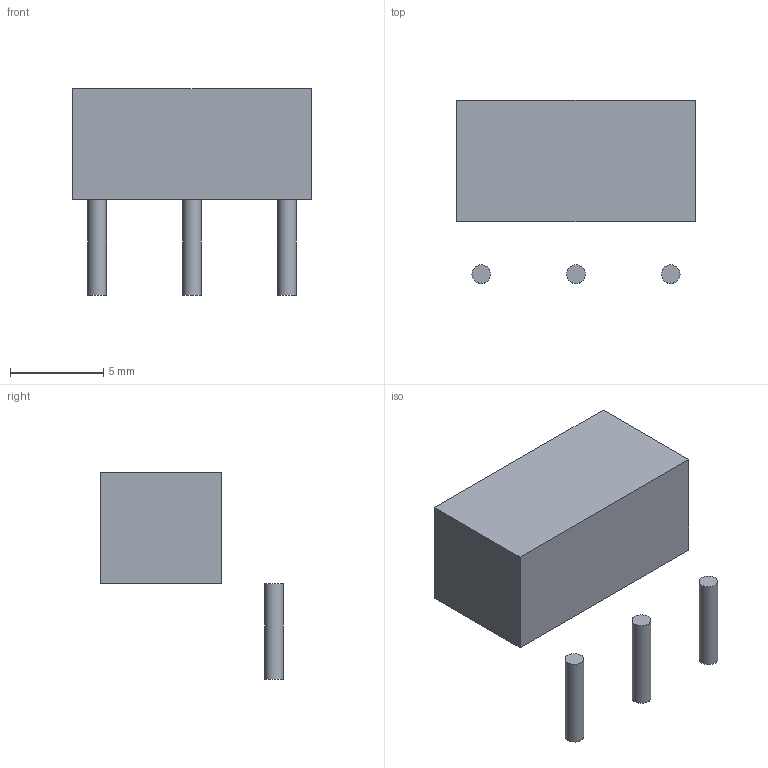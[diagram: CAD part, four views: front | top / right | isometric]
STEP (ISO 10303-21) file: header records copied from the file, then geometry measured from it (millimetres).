
FILE_DESCRIPTION(('FreeCAD Model'),'2;1');
FILE_NAME('/var/www/3D/0T/2252572.1.2.stp','2022-09-21T06:24:53',( 'Author'),(''),'Open CASCADE STEP processor 6.9','FreeCAD','Unknown' );
FILE_SCHEMA(('AUTOMOTIVE_DESIGN { 1 0 10303 214 1 1 1 1 }'));
Length unit declared in the file: millimetre
Products named in the file (3): ASSEMBLY; Body; Leads
Assembly tree (2 placements, depth 2):
  ASSEMBLY
    Body
    Leads
Bounding box: 12.8 x 9.8 x 11.05 mm (x, y, z)
Volume: 507.1 mm3; surface area: 448.8 mm2
Topology: 4 solids, 4 shells, 15 faces, 21 edges, 14 vertices
Faces by surface type: plane 12, cylinder 3
Full cylindrical faces by diameter (mm): 1 x3
Entity records: 674 total; most frequent: DIRECTION 105, CARTESIAN_POINT 95, LINE 51, VECTOR 51, ORIENTED_EDGE 42, PCURVE 42, DEFINITIONAL_REPRESENTATION 42, AXIS2_PLACEMENT_3D 24
